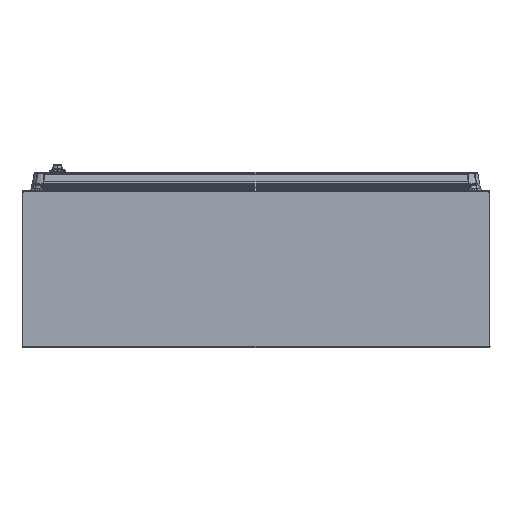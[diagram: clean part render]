
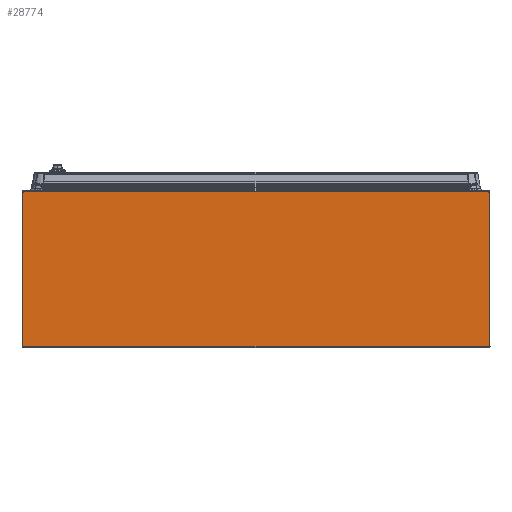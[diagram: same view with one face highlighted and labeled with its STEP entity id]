
A CAD part, front view. The second image highlights one B-rep face of the part: STEP entity #28774.
In plain terms, the highlighted planar face has unit normal (0, -1, 0).
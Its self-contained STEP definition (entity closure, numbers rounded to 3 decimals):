
#1270 = EDGE_LOOP ( 'NONE', ( #42455, #101546, #58891, #127089, #143954, #109483, #35425, #145156 ) ) ;
#1897 = CARTESIAN_POINT ( 'NONE',  ( 397.75, -400., 267. ) ) ;
#6695 = CARTESIAN_POINT ( 'NONE',  ( -371.629, -400., 248.514 ) ) ;
#12965 = DIRECTION ( 'NONE',  ( 0., 0., -1. ) ) ;
#15953 = AXIS2_PLACEMENT_3D ( 'NONE', #33758, #98819, #155922 ) ;
#16676 = LINE ( 'NONE', #65535, #207676 ) ;
#16707 = VECTOR ( 'NONE', #148849, 1000. ) ;
#28774 = ADVANCED_FACE ( 'NONE', ( #81945 ), #110158, .F. ) ;
#33758 = CARTESIAN_POINT ( 'NONE',  ( 371.629, -400., 248.514 ) ) ;
#35425 = ORIENTED_EDGE ( 'NONE', *, *, #104661, .F. ) ;
#36219 = DIRECTION ( 'NONE',  ( 0., 0., 1. ) ) ;
#38380 = AXIS2_PLACEMENT_3D ( 'NONE', #120044, #88610, #186228 ) ;
#41275 = CARTESIAN_POINT ( 'NONE',  ( -397.75, -400., 267. ) ) ;
#42455 = ORIENTED_EDGE ( 'NONE', *, *, #42653, .T. ) ;
#42653 = EDGE_CURVE ( 'NONE', #181898, #97494, #144015, .T. ) ;
#43690 = CIRCLE ( 'NONE', #15953, 32. ) ;
#46585 = DIRECTION ( 'NONE',  ( 0., -1., 0. ) ) ;
#54394 = DIRECTION ( 'NONE',  ( 0., 0., -1. ) ) ;
#55051 = EDGE_CURVE ( 'NONE', #68002, #81150, #198724, .T. ) ;
#58891 = ORIENTED_EDGE ( 'NONE', *, *, #187217, .T. ) ;
#60268 = CARTESIAN_POINT ( 'NONE',  ( 397.791, -400., 266.942 ) ) ;
#65535 = CARTESIAN_POINT ( 'NONE',  ( -398.429, -400., 267. ) ) ;
#68002 = VERTEX_POINT ( 'NONE', #1897 ) ;
#70726 = DIRECTION ( 'NONE',  ( 0., -1., 0. ) ) ;
#71712 = EDGE_CURVE ( 'NONE', #181898, #198788, #90469, .T. ) ;
#75110 = AXIS2_PLACEMENT_3D ( 'NONE', #213098, #180617, #93915 ) ;
#81150 = VERTEX_POINT ( 'NONE', #41275 ) ;
#81197 = EDGE_CURVE ( 'NONE', #97494, #85577, #89050, .T. ) ;
#81945 = FACE_OUTER_BOUND ( 'NONE', #1270, .T. ) ;
#85577 = VERTEX_POINT ( 'NONE', #60268 ) ;
#88610 = DIRECTION ( 'NONE',  ( 0., -1., 0. ) ) ;
#89050 = CIRCLE ( 'NONE', #106229, 3.5 ) ;
#90469 = LINE ( 'NONE', #155566, #149473 ) ;
#93915 = DIRECTION ( 'NONE',  ( 0., 0., 1. ) ) ;
#97216 = VERTEX_POINT ( 'NONE', #207482 ) ;
#97494 = VERTEX_POINT ( 'NONE', #184630 ) ;
#98819 = DIRECTION ( 'NONE',  ( 0., -1., 0. ) ) ;
#101546 = ORIENTED_EDGE ( 'NONE', *, *, #81197, .T. ) ;
#104661 = EDGE_CURVE ( 'NONE', #198788, #201975, #16676, .T. ) ;
#106229 = AXIS2_PLACEMENT_3D ( 'NONE', #132171, #46585, #12965 ) ;
#108068 = CARTESIAN_POINT ( 'NONE',  ( 398.429, -400., 3. ) ) ;
#109483 = ORIENTED_EDGE ( 'NONE', *, *, #117780, .T. ) ;
#110158 = PLANE ( 'NONE',  #75110 ) ;
#117522 = AXIS2_PLACEMENT_3D ( 'NONE', #6695, #70726, #54394 ) ;
#117780 = EDGE_CURVE ( 'NONE', #97216, #201975, #142157, .T. ) ;
#120044 = CARTESIAN_POINT ( 'NONE',  ( -394.929, -400., 264.926 ) ) ;
#127089 = ORIENTED_EDGE ( 'NONE', *, *, #55051, .T. ) ;
#131425 = CIRCLE ( 'NONE', #117522, 32. ) ;
#132171 = CARTESIAN_POINT ( 'NONE',  ( 394.929, -400., 264.926 ) ) ;
#132548 = CARTESIAN_POINT ( 'NONE',  ( 0., -400., 267. ) ) ;
#136117 = CARTESIAN_POINT ( 'NONE',  ( -398.429, -400., 3. ) ) ;
#140306 = DIRECTION ( 'NONE',  ( -1., 0., 0. ) ) ;
#142157 = CIRCLE ( 'NONE', #38380, 3.5 ) ;
#143954 = ORIENTED_EDGE ( 'NONE', *, *, #172855, .T. ) ;
#144015 = LINE ( 'NONE', #210158, #198807 ) ;
#145156 = ORIENTED_EDGE ( 'NONE', *, *, #71712, .F. ) ;
#148849 = DIRECTION ( 'NONE',  ( -1., 0., 0. ) ) ;
#149473 = VECTOR ( 'NONE', #140306, 1000. ) ;
#153512 = CARTESIAN_POINT ( 'NONE',  ( -398.429, -400., 264.926 ) ) ;
#155566 = CARTESIAN_POINT ( 'NONE',  ( 0., -400., 3. ) ) ;
#155922 = DIRECTION ( 'NONE',  ( 0., 0., 1. ) ) ;
#172855 = EDGE_CURVE ( 'NONE', #81150, #97216, #131425, .T. ) ;
#180617 = DIRECTION ( 'NONE',  ( 0., 1., 0. ) ) ;
#181898 = VERTEX_POINT ( 'NONE', #108068 ) ;
#184112 = DIRECTION ( 'NONE',  ( 0., 0., 1. ) ) ;
#184630 = CARTESIAN_POINT ( 'NONE',  ( 398.429, -400., 264.926 ) ) ;
#186228 = DIRECTION ( 'NONE',  ( 0., 0., -1. ) ) ;
#187217 = EDGE_CURVE ( 'NONE', #85577, #68002, #43690, .T. ) ;
#198724 = LINE ( 'NONE', #132548, #16707 ) ;
#198788 = VERTEX_POINT ( 'NONE', #136117 ) ;
#198807 = VECTOR ( 'NONE', #184112, 1000. ) ;
#201975 = VERTEX_POINT ( 'NONE', #153512 ) ;
#207482 = CARTESIAN_POINT ( 'NONE',  ( -397.791, -400., 266.942 ) ) ;
#207676 = VECTOR ( 'NONE', #36219, 1000. ) ;
#210158 = CARTESIAN_POINT ( 'NONE',  ( 398.429, -400., 267. ) ) ;
#213098 = CARTESIAN_POINT ( 'NONE',  ( 0., -400., 267. ) ) ;
